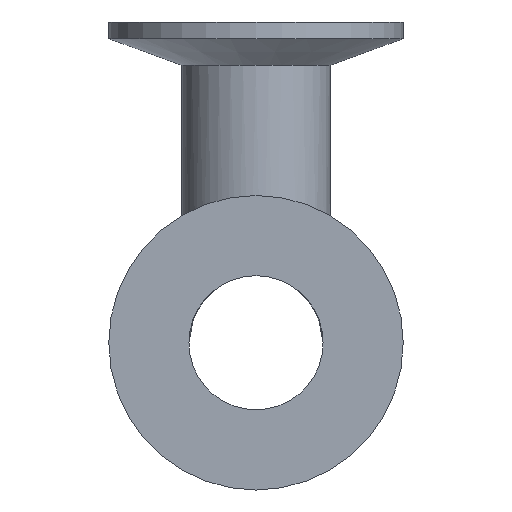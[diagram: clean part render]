
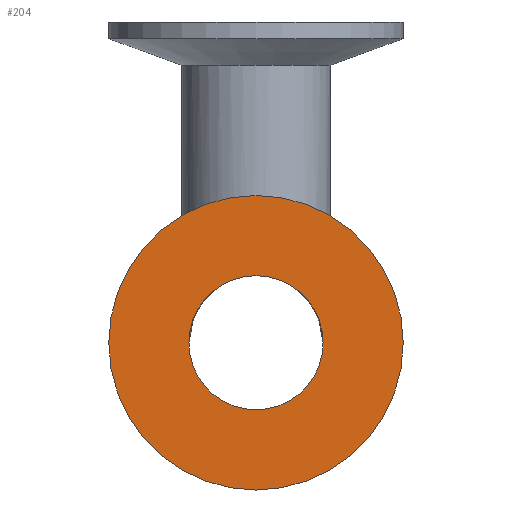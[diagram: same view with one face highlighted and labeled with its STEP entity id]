
A CAD part, left-side view. The second image highlights one B-rep face of the part: STEP entity #204.
In plain terms, the highlighted planar face has unit normal (-1, 0, 0).
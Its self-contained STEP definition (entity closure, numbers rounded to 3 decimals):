
#14=PLANE('',#240);
#47=FACE_BOUND('',#92,.T.);
#64=FACE_OUTER_BOUND('',#91,.T.);
#91=EDGE_LOOP('',(#178));
#92=EDGE_LOOP('',(#179));
#102=CIRCLE('',#215,25.25);
#110=CIRCLE('',#233,11.5);
#114=VERTEX_POINT('',#319);
#124=VERTEX_POINT('',#503);
#130=EDGE_CURVE('',#114,#114,#102,.T.);
#142=EDGE_CURVE('',#124,#124,#110,.T.);
#178=ORIENTED_EDGE('',*,*,#130,.T.);
#179=ORIENTED_EDGE('',*,*,#142,.T.);
#204=ADVANCED_FACE('',(#64,#47),#14,.T.);
#215=AXIS2_PLACEMENT_3D('',#320,#254,#255);
#233=AXIS2_PLACEMENT_3D('',#504,#290,#291);
#240=AXIS2_PLACEMENT_3D('',#670,#304,#305);
#254=DIRECTION('center_axis',(-1.,0.,0.));
#255=DIRECTION('ref_axis',(0.,0.,1.));
#290=DIRECTION('center_axis',(1.,0.,0.));
#291=DIRECTION('ref_axis',(0.,-1.,0.));
#304=DIRECTION('center_axis',(-1.,0.,0.));
#305=DIRECTION('ref_axis',(0.,0.,1.));
#319=CARTESIAN_POINT('',(-55.,25.25,0.));
#320=CARTESIAN_POINT('Origin',(-55.,0.,0.));
#503=CARTESIAN_POINT('',(-55.,11.5,0.));
#504=CARTESIAN_POINT('Origin',(-55.,0.,0.));
#670=CARTESIAN_POINT('Origin',(-55.,0.,0.));
